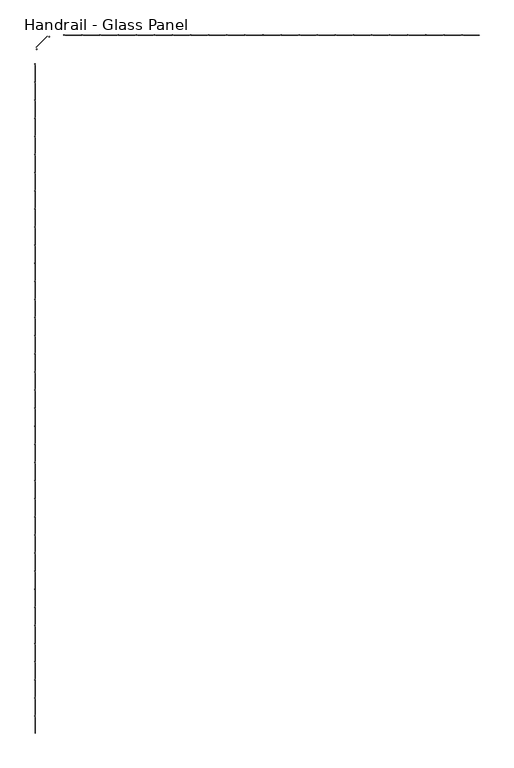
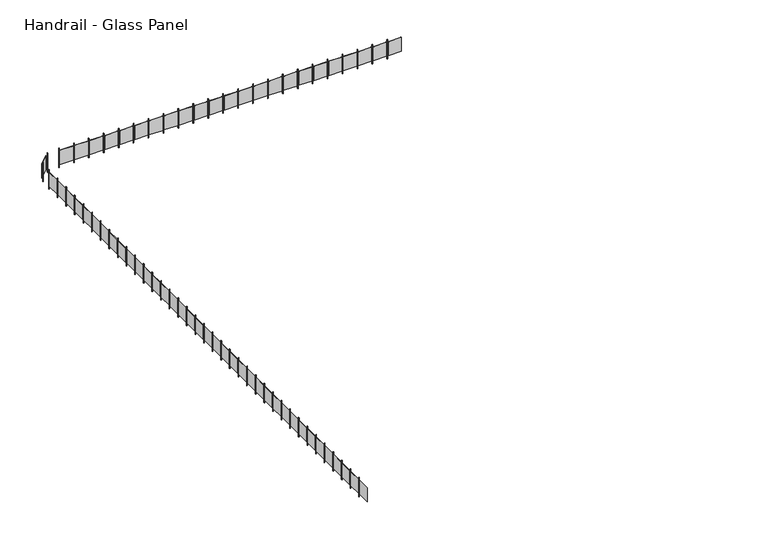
"""IFC4 building model written with IfcOpenShell, lengths in millimetres: railing geometry, Handrail - Glass Panel."""

from ifc_helpers import new_model, si_unit, frame, origin, place, context, project, spatial, polyline, outline, extrude, source, transform, mapped, element, save


def handrail_glass_panel_ca02703f(model_context):
    return source(origin(), model_context, "Body", "SweptSolid", [
        extrude(outline(polyline([(-20556.6365899, -12485.7148653), (-20556.6365899, -13044.5148653), (-20562.9865899, -13044.5148653), (-20562.9865899, -12485.7148653), (-20556.6365899, -12485.7148653)])), frame((0.0, 0.0, 11977.0), z_axis=(0.0, 0.0, 1.0), x_axis=(1.0, 0.0, 0.0)), (0.0, 0.0, 1.0), 635.0),
        extrude(outline(polyline([(-20572.5115899, -12438.0898653), (-20553.4615899, -12438.0898653), (-20553.4615899, -12457.1398653), (-20572.5115899, -12457.1398653), (-20572.5115899, -12438.0898653)])), frame((0.0, 0.0, 11850.0), z_axis=(0.0, 0.0, 1.0), x_axis=(1.0, 0.0, 0.0)), (0.0, 0.0, 1.0), 863.6),
        extrude(outline(polyline([(-20556.6365899, -11850.7148653), (-20556.6365899, -12409.5148653), (-20562.9865899, -12409.5148653), (-20562.9865899, -11850.7148653), (-20556.6365899, -11850.7148653)])), frame((0.0, 0.0, 11977.0), z_axis=(0.0, 0.0, 1.0), x_axis=(1.0, 0.0, 0.0)), (0.0, 0.0, 1.0), 635.0),
        extrude(outline(polyline([(-20572.5115899, -11803.0898653), (-20553.4615899, -11803.0898653), (-20553.4615899, -11822.1398653), (-20572.5115899, -11822.1398653), (-20572.5115899, -11803.0898653)])), frame((0.0, 0.0, 11850.0), z_axis=(0.0, 0.0, 1.0), x_axis=(1.0, 0.0, 0.0)), (0.0, 0.0, 1.0), 863.6),
        extrude(outline(polyline([(-20556.6365899, -11215.7148653), (-20556.6365899, -11774.5148653), (-20562.9865899, -11774.5148653), (-20562.9865899, -11215.7148653), (-20556.6365899, -11215.7148653)])), frame((0.0, 0.0, 11977.0), z_axis=(0.0, 0.0, 1.0), x_axis=(1.0, 0.0, 0.0)), (0.0, 0.0, 1.0), 635.0),
        extrude(outline(polyline([(-20572.5115899, -11168.0898653), (-20553.4615899, -11168.0898653), (-20553.4615899, -11187.1398653), (-20572.5115899, -11187.1398653), (-20572.5115899, -11168.0898653)])), frame((0.0, 0.0, 11850.0), z_axis=(0.0, 0.0, 1.0), x_axis=(1.0, 0.0, 0.0)), (0.0, 0.0, 1.0), 863.6),
        extrude(outline(polyline([(-20556.6365899, -10580.7148653), (-20556.6365899, -11139.5148653), (-20562.9865899, -11139.5148653), (-20562.9865899, -10580.7148653), (-20556.6365899, -10580.7148653)])), frame((0.0, 0.0, 11977.0), z_axis=(0.0, 0.0, 1.0), x_axis=(1.0, 0.0, 0.0)), (0.0, 0.0, 1.0), 635.0),
        extrude(outline(polyline([(-20572.5115899, -10533.0898653), (-20553.4615899, -10533.0898653), (-20553.4615899, -10552.1398653), (-20572.5115899, -10552.1398653), (-20572.5115899, -10533.0898653)])), frame((0.0, 0.0, 11850.0), z_axis=(0.0, 0.0, 1.0), x_axis=(1.0, 0.0, 0.0)), (0.0, 0.0, 1.0), 863.6),
        extrude(outline(polyline([(-20556.6365899, -9945.7148653), (-20556.6365899, -10504.5148653), (-20562.9865899, -10504.5148653), (-20562.9865899, -9945.7148653), (-20556.6365899, -9945.7148653)])), frame((0.0, 0.0, 11977.0), z_axis=(0.0, 0.0, 1.0), x_axis=(1.0, 0.0, 0.0)), (0.0, 0.0, 1.0), 635.0),
        extrude(outline(polyline([(-20572.5115899, -9898.0898653), (-20553.4615899, -9898.0898653), (-20553.4615899, -9917.1398653), (-20572.5115899, -9917.1398653), (-20572.5115899, -9898.0898653)])), frame((0.0, 0.0, 11850.0), z_axis=(0.0, 0.0, 1.0), x_axis=(1.0, 0.0, 0.0)), (0.0, 0.0, 1.0), 863.6),
        extrude(outline(polyline([(-20556.6365899, -9310.7148653), (-20556.6365899, -9869.5148653), (-20562.9865899, -9869.5148653), (-20562.9865899, -9310.7148653), (-20556.6365899, -9310.7148653)])), frame((0.0, 0.0, 11977.0), z_axis=(0.0, 0.0, 1.0), x_axis=(1.0, 0.0, 0.0)), (0.0, 0.0, 1.0), 635.0),
        extrude(outline(polyline([(-20572.5115899, -9263.0898653), (-20553.4615899, -9263.0898653), (-20553.4615899, -9282.1398653), (-20572.5115899, -9282.1398653), (-20572.5115899, -9263.0898653)])), frame((0.0, 0.0, 11850.0), z_axis=(0.0, 0.0, 1.0), x_axis=(1.0, 0.0, 0.0)), (0.0, 0.0, 1.0), 863.6),
        extrude(outline(polyline([(-20556.6365899, -8675.7148653), (-20556.6365899, -9234.5148653), (-20562.9865899, -9234.5148653), (-20562.9865899, -8675.7148653), (-20556.6365899, -8675.7148653)])), frame((0.0, 0.0, 11977.0), z_axis=(0.0, 0.0, 1.0), x_axis=(1.0, 0.0, 0.0)), (0.0, 0.0, 1.0), 635.0),
        extrude(outline(polyline([(-20572.5115899, -8628.0898653), (-20553.4615899, -8628.0898653), (-20553.4615899, -8647.1398653), (-20572.5115899, -8647.1398653), (-20572.5115899, -8628.0898653)])), frame((0.0, 0.0, 11850.0), z_axis=(0.0, 0.0, 1.0), x_axis=(1.0, 0.0, 0.0)), (0.0, 0.0, 1.0), 863.6),
        extrude(outline(polyline([(-20556.6365899, -8040.7148653), (-20556.6365899, -8599.5148653), (-20562.9865899, -8599.5148653), (-20562.9865899, -8040.7148653), (-20556.6365899, -8040.7148653)])), frame((0.0, 0.0, 11977.0), z_axis=(0.0, 0.0, 1.0), x_axis=(1.0, 0.0, 0.0)), (0.0, 0.0, 1.0), 635.0),
        extrude(outline(polyline([(-20572.5115899, -7993.0898653), (-20553.4615899, -7993.0898653), (-20553.4615899, -8012.1398653), (-20572.5115899, -8012.1398653), (-20572.5115899, -7993.0898653)])), frame((0.0, 0.0, 11850.0), z_axis=(0.0, 0.0, 1.0), x_axis=(1.0, 0.0, 0.0)), (0.0, 0.0, 1.0), 863.6),
        extrude(outline(polyline([(-20556.6365899, -7405.7148653), (-20556.6365899, -7964.5148653), (-20562.9865899, -7964.5148653), (-20562.9865899, -7405.7148653), (-20556.6365899, -7405.7148653)])), frame((0.0, 0.0, 11977.0), z_axis=(0.0, 0.0, 1.0), x_axis=(1.0, 0.0, 0.0)), (0.0, 0.0, 1.0), 635.0),
        extrude(outline(polyline([(-20572.5115899, -7358.0898653), (-20553.4615899, -7358.0898653), (-20553.4615899, -7377.1398653), (-20572.5115899, -7377.1398653), (-20572.5115899, -7358.0898653)])), frame((0.0, 0.0, 11850.0), z_axis=(0.0, 0.0, 1.0), x_axis=(1.0, 0.0, 0.0)), (0.0, 0.0, 1.0), 863.6),
        extrude(outline(polyline([(-20556.6365899, -6770.7148653), (-20556.6365899, -7329.5148653), (-20562.9865899, -7329.5148653), (-20562.9865899, -6770.7148653), (-20556.6365899, -6770.7148653)])), frame((0.0, 0.0, 11977.0), z_axis=(0.0, 0.0, 1.0), x_axis=(1.0, 0.0, 0.0)), (0.0, 0.0, 1.0), 635.0),
        extrude(outline(polyline([(-20572.5115899, -6723.0898653), (-20553.4615899, -6723.0898653), (-20553.4615899, -6742.1398653), (-20572.5115899, -6742.1398653), (-20572.5115899, -6723.0898653)])), frame((0.0, 0.0, 11850.0), z_axis=(0.0, 0.0, 1.0), x_axis=(1.0, 0.0, 0.0)), (0.0, 0.0, 1.0), 863.6),
        extrude(outline(polyline([(-20556.6365899, -6135.7148653), (-20556.6365899, -6694.5148653), (-20562.9865899, -6694.5148653), (-20562.9865899, -6135.7148653), (-20556.6365899, -6135.7148653)])), frame((0.0, 0.0, 11977.0), z_axis=(0.0, 0.0, 1.0), x_axis=(1.0, 0.0, 0.0)), (0.0, 0.0, 1.0), 635.0),
        extrude(outline(polyline([(-20572.5115899, -6088.0898653), (-20553.4615899, -6088.0898653), (-20553.4615899, -6107.1398653), (-20572.5115899, -6107.1398653), (-20572.5115899, -6088.0898653)])), frame((0.0, 0.0, 11850.0), z_axis=(0.0, 0.0, 1.0), x_axis=(1.0, 0.0, 0.0)), (0.0, 0.0, 1.0), 863.6),
        extrude(outline(polyline([(-20556.6365899, -5500.7148653), (-20556.6365899, -6059.5148653), (-20562.9865899, -6059.5148653), (-20562.9865899, -5500.7148653), (-20556.6365899, -5500.7148653)])), frame((0.0, 0.0, 11977.0), z_axis=(0.0, 0.0, 1.0), x_axis=(1.0, 0.0, 0.0)), (0.0, 0.0, 1.0), 635.0),
        extrude(outline(polyline([(-20572.5115899, -5453.0898653), (-20553.4615899, -5453.0898653), (-20553.4615899, -5472.1398653), (-20572.5115899, -5472.1398653), (-20572.5115899, -5453.0898653)])), frame((0.0, 0.0, 11850.0), z_axis=(0.0, 0.0, 1.0), x_axis=(1.0, 0.0, 0.0)), (0.0, 0.0, 1.0), 863.6),
        extrude(outline(polyline([(-20556.6365899, -4865.7148653), (-20556.6365899, -5424.5148653), (-20562.9865899, -5424.5148653), (-20562.9865899, -4865.7148653), (-20556.6365899, -4865.7148653)])), frame((0.0, 0.0, 11977.0), z_axis=(0.0, 0.0, 1.0), x_axis=(1.0, 0.0, 0.0)), (0.0, 0.0, 1.0), 635.0),
        extrude(outline(polyline([(-20572.5115899, -4818.0898653), (-20553.4615899, -4818.0898653), (-20553.4615899, -4837.1398653), (-20572.5115899, -4837.1398653), (-20572.5115899, -4818.0898653)])), frame((0.0, 0.0, 11850.0), z_axis=(0.0, 0.0, 1.0), x_axis=(1.0, 0.0, 0.0)), (0.0, 0.0, 1.0), 863.6),
        extrude(outline(polyline([(-20556.6365899, -4230.7148653), (-20556.6365899, -4789.5148653), (-20562.9865899, -4789.5148653), (-20562.9865899, -4230.7148653), (-20556.6365899, -4230.7148653)])), frame((0.0, 0.0, 11977.0), z_axis=(0.0, 0.0, 1.0), x_axis=(1.0, 0.0, 0.0)), (0.0, 0.0, 1.0), 635.0),
        extrude(outline(polyline([(-20572.5115899, -4183.0898653), (-20553.4615899, -4183.0898653), (-20553.4615899, -4202.1398653), (-20572.5115899, -4202.1398653), (-20572.5115899, -4183.0898653)])), frame((0.0, 0.0, 11850.0), z_axis=(0.0, 0.0, 1.0), x_axis=(1.0, 0.0, 0.0)), (0.0, 0.0, 1.0), 863.6),
        extrude(outline(polyline([(-20556.6365899, -3595.7148653), (-20556.6365899, -4154.5148653), (-20562.9865899, -4154.5148653), (-20562.9865899, -3595.7148653), (-20556.6365899, -3595.7148653)])), frame((0.0, 0.0, 11977.0), z_axis=(0.0, 0.0, 1.0), x_axis=(1.0, 0.0, 0.0)), (0.0, 0.0, 1.0), 635.0),
        extrude(outline(polyline([(-20572.5115899, -3548.0898653), (-20553.4615899, -3548.0898653), (-20553.4615899, -3567.1398653), (-20572.5115899, -3567.1398653), (-20572.5115899, -3548.0898653)])), frame((0.0, 0.0, 11850.0), z_axis=(0.0, 0.0, 1.0), x_axis=(1.0, 0.0, 0.0)), (0.0, 0.0, 1.0), 863.6),
        extrude(outline(polyline([(-20556.6365899, -2960.7148653), (-20556.6365899, -3519.5148653), (-20562.9865899, -3519.5148653), (-20562.9865899, -2960.7148653), (-20556.6365899, -2960.7148653)])), frame((0.0, 0.0, 11977.0), z_axis=(0.0, 0.0, 1.0), x_axis=(1.0, 0.0, 0.0)), (0.0, 0.0, 1.0), 635.0),
        extrude(outline(polyline([(-20572.5115899, -2913.0898653), (-20553.4615899, -2913.0898653), (-20553.4615899, -2932.1398653), (-20572.5115899, -2932.1398653), (-20572.5115899, -2913.0898653)])), frame((0.0, 0.0, 11850.0), z_axis=(0.0, 0.0, 1.0), x_axis=(1.0, 0.0, 0.0)), (0.0, 0.0, 1.0), 863.6),
        extrude(outline(polyline([(-20556.6365899, -2325.7148653), (-20556.6365899, -2884.5148653), (-20562.9865899, -2884.5148653), (-20562.9865899, -2325.7148653), (-20556.6365899, -2325.7148653)])), frame((0.0, 0.0, 11977.0), z_axis=(0.0, 0.0, 1.0), x_axis=(1.0, 0.0, 0.0)), (0.0, 0.0, 1.0), 635.0),
        extrude(outline(polyline([(-20572.5115899, -2278.0898653), (-20553.4615899, -2278.0898653), (-20553.4615899, -2297.1398653), (-20572.5115899, -2297.1398653), (-20572.5115899, -2278.0898653)])), frame((0.0, 0.0, 11850.0), z_axis=(0.0, 0.0, 1.0), x_axis=(1.0, 0.0, 0.0)), (0.0, 0.0, 1.0), 863.6),
        extrude(outline(polyline([(-20556.6365899, -1690.7148653), (-20556.6365899, -2249.5148653), (-20562.9865899, -2249.5148653), (-20562.9865899, -1690.7148653), (-20556.6365899, -1690.7148653)])), frame((0.0, 0.0, 11977.0), z_axis=(0.0, 0.0, 1.0), x_axis=(1.0, 0.0, 0.0)), (0.0, 0.0, 1.0), 635.0),
        extrude(outline(polyline([(-20572.5115899, -1643.0898653), (-20553.4615899, -1643.0898653), (-20553.4615899, -1662.1398653), (-20572.5115899, -1662.1398653), (-20572.5115899, -1643.0898653)])), frame((0.0, 0.0, 11850.0), z_axis=(0.0, 0.0, 1.0), x_axis=(1.0, 0.0, 0.0)), (0.0, 0.0, 1.0), 863.6),
        extrude(outline(polyline([(-20556.6365899, -1055.7148653), (-20556.6365899, -1614.5148653), (-20562.9865899, -1614.5148653), (-20562.9865899, -1055.7148653), (-20556.6365899, -1055.7148653)])), frame((0.0, 0.0, 11977.0), z_axis=(0.0, 0.0, 1.0), x_axis=(1.0, 0.0, 0.0)), (0.0, 0.0, 1.0), 635.0),
        extrude(outline(polyline([(-20572.5115899, -1008.0898653), (-20553.4615899, -1008.0898653), (-20553.4615899, -1027.1398653), (-20572.5115899, -1027.1398653), (-20572.5115899, -1008.0898653)])), frame((0.0, 0.0, 11850.0), z_axis=(0.0, 0.0, 1.0), x_axis=(1.0, 0.0, 0.0)), (0.0, 0.0, 1.0), 863.6),
        extrude(outline(polyline([(-20556.6365899, -420.7148653), (-20556.6365899, -979.5148653), (-20562.9865899, -979.5148653), (-20562.9865899, -420.7148653), (-20556.6365899, -420.7148653)])), frame((0.0, 0.0, 11977.0), z_axis=(0.0, 0.0, 1.0), x_axis=(1.0, 0.0, 0.0)), (0.0, 0.0, 1.0), 635.0),
        extrude(outline(polyline([(-20572.5115899, -373.0898653), (-20553.4615899, -373.0898653), (-20553.4615899, -392.1398653), (-20572.5115899, -392.1398653), (-20572.5115899, -373.0898653)])), frame((0.0, 0.0, 11850.0), z_axis=(0.0, 0.0, 1.0), x_axis=(1.0, 0.0, 0.0)), (0.0, 0.0, 1.0), 863.6),
        extrude(outline(polyline([(-20556.6365899, 214.2851347), (-20556.6365899, -344.5148653), (-20562.9865899, -344.5148653), (-20562.9865899, 214.2851347), (-20556.6365899, 214.2851347)])), frame((0.0, 0.0, 11977.0), z_axis=(0.0, 0.0, 1.0), x_axis=(1.0, 0.0, 0.0)), (0.0, 0.0, 1.0), 635.0),
        extrude(outline(polyline([(-20572.5115899, 261.9101347), (-20553.4615899, 261.9101347), (-20553.4615899, 242.8601347), (-20572.5115899, 242.8601347), (-20572.5115899, 261.9101347)])), frame((0.0, 0.0, 11850.0), z_axis=(0.0, 0.0, 1.0), x_axis=(1.0, 0.0, 0.0)), (0.0, 0.0, 1.0), 863.6),
        extrude(outline(polyline([(-20556.6365899, 849.2851347), (-20556.6365899, 290.4851347), (-20562.9865899, 290.4851347), (-20562.9865899, 849.2851347), (-20556.6365899, 849.2851347)])), frame((0.0, 0.0, 11977.0), z_axis=(0.0, 0.0, 1.0), x_axis=(1.0, 0.0, 0.0)), (0.0, 0.0, 1.0), 635.0),
        extrude(outline(polyline([(-20572.5115899, 896.9101347), (-20553.4615899, 896.9101347), (-20553.4615899, 877.8601347), (-20572.5115899, 877.8601347), (-20572.5115899, 896.9101347)])), frame((0.0, 0.0, 11850.0), z_axis=(0.0, 0.0, 1.0), x_axis=(1.0, 0.0, 0.0)), (0.0, 0.0, 1.0), 863.6),
        extrude(outline(polyline([(-20556.6365899, 1484.2851347), (-20556.6365899, 925.4851347), (-20562.9865899, 925.4851347), (-20562.9865899, 1484.2851347), (-20556.6365899, 1484.2851347)])), frame((0.0, 0.0, 11977.0), z_axis=(0.0, 0.0, 1.0), x_axis=(1.0, 0.0, 0.0)), (0.0, 0.0, 1.0), 635.0),
        extrude(outline(polyline([(-20572.5115899, 1531.9101347), (-20553.4615899, 1531.9101347), (-20553.4615899, 1512.8601347), (-20572.5115899, 1512.8601347), (-20572.5115899, 1531.9101347)])), frame((0.0, 0.0, 11850.0), z_axis=(0.0, 0.0, 1.0), x_axis=(1.0, 0.0, 0.0)), (0.0, 0.0, 1.0), 863.6),
        extrude(outline(polyline([(-20556.6365899, 2119.2851347), (-20556.6365899, 1560.4851347), (-20562.9865899, 1560.4851347), (-20562.9865899, 2119.2851347), (-20556.6365899, 2119.2851347)])), frame((0.0, 0.0, 11977.0), z_axis=(0.0, 0.0, 1.0), x_axis=(1.0, 0.0, 0.0)), (0.0, 0.0, 1.0), 635.0),
        extrude(outline(polyline([(-20572.5115899, 2166.9101347), (-20553.4615899, 2166.9101347), (-20553.4615899, 2147.8601347), (-20572.5115899, 2147.8601347), (-20572.5115899, 2166.9101347)])), frame((0.0, 0.0, 11850.0), z_axis=(0.0, 0.0, 1.0), x_axis=(1.0, 0.0, 0.0)), (0.0, 0.0, 1.0), 863.6),
        extrude(outline(polyline([(-20556.6365899, 2754.2851347), (-20556.6365899, 2195.4851347), (-20562.9865899, 2195.4851347), (-20562.9865899, 2754.2851347), (-20556.6365899, 2754.2851347)])), frame((0.0, 0.0, 11977.0), z_axis=(0.0, 0.0, 1.0), x_axis=(1.0, 0.0, 0.0)), (0.0, 0.0, 1.0), 635.0),
        extrude(outline(polyline([(-20572.5115899, 2801.9101347), (-20553.4615899, 2801.9101347), (-20553.4615899, 2782.8601347), (-20572.5115899, 2782.8601347), (-20572.5115899, 2801.9101347)])), frame((0.0, 0.0, 11850.0), z_axis=(0.0, 0.0, 1.0), x_axis=(1.0, 0.0, 0.0)), (0.0, 0.0, 1.0), 863.6),
        extrude(outline(polyline([(-20556.6365899, 3389.2851347), (-20556.6365899, 2830.4851347), (-20562.9865899, 2830.4851347), (-20562.9865899, 3389.2851347), (-20556.6365899, 3389.2851347)])), frame((0.0, 0.0, 11977.0), z_axis=(0.0, 0.0, 1.0), x_axis=(1.0, 0.0, 0.0)), (0.0, 0.0, 1.0), 635.0),
        extrude(outline(polyline([(-20572.5115899, 3436.9101347), (-20553.4615899, 3436.9101347), (-20553.4615899, 3417.8601347), (-20572.5115899, 3417.8601347), (-20572.5115899, 3436.9101347)])), frame((0.0, 0.0, 11850.0), z_axis=(0.0, 0.0, 1.0), x_axis=(1.0, 0.0, 0.0)), (0.0, 0.0, 1.0), 863.6),
        extrude(outline(polyline([(-20556.6365899, 4024.2851347), (-20556.6365899, 3465.4851347), (-20562.9865899, 3465.4851347), (-20562.9865899, 4024.2851347), (-20556.6365899, 4024.2851347)])), frame((0.0, 0.0, 11977.0), z_axis=(0.0, 0.0, 1.0), x_axis=(1.0, 0.0, 0.0)), (0.0, 0.0, 1.0), 635.0),
        extrude(outline(polyline([(-20572.5115899, 4071.9101347), (-20553.4615899, 4071.9101347), (-20553.4615899, 4052.8601347), (-20572.5115899, 4052.8601347), (-20572.5115899, 4071.9101347)])), frame((0.0, 0.0, 11850.0), z_axis=(0.0, 0.0, 1.0), x_axis=(1.0, 0.0, 0.0)), (0.0, 0.0, 1.0), 863.6),
        extrude(outline(polyline([(-20556.6365899, 4659.2851347), (-20556.6365899, 4100.4851347), (-20562.9865899, 4100.4851347), (-20562.9865899, 4659.2851347), (-20556.6365899, 4659.2851347)])), frame((0.0, 0.0, 11977.0), z_axis=(0.0, 0.0, 1.0), x_axis=(1.0, 0.0, 0.0)), (0.0, 0.0, 1.0), 635.0),
        extrude(outline(polyline([(-20572.5115899, 4706.9101347), (-20553.4615899, 4706.9101347), (-20553.4615899, 4687.8601347), (-20572.5115899, 4687.8601347), (-20572.5115899, 4706.9101347)])), frame((0.0, 0.0, 11850.0), z_axis=(0.0, 0.0, 1.0), x_axis=(1.0, 0.0, 0.0)), (0.0, 0.0, 1.0), 863.6),
        extrude(outline(polyline([(-20556.6365899, 5294.2851347), (-20556.6365899, 4735.4851347), (-20562.9865899, 4735.4851347), (-20562.9865899, 5294.2851347), (-20556.6365899, 5294.2851347)])), frame((0.0, 0.0, 11977.0), z_axis=(0.0, 0.0, 1.0), x_axis=(1.0, 0.0, 0.0)), (0.0, 0.0, 1.0), 635.0),
        extrude(outline(polyline([(-20572.5115899, 5341.9101347), (-20553.4615899, 5341.9101347), (-20553.4615899, 5322.8601347), (-20572.5115899, 5322.8601347), (-20572.5115899, 5341.9101347)])), frame((0.0, 0.0, 11850.0), z_axis=(0.0, 0.0, 1.0), x_axis=(1.0, 0.0, 0.0)), (0.0, 0.0, 1.0), 863.6),
        extrude(outline(polyline([(-20556.6365899, 5929.2851347), (-20556.6365899, 5370.4851347), (-20562.9865899, 5370.4851347), (-20562.9865899, 5929.2851347), (-20556.6365899, 5929.2851347)])), frame((0.0, 0.0, 11977.0), z_axis=(0.0, 0.0, 1.0), x_axis=(1.0, 0.0, 0.0)), (0.0, 0.0, 1.0), 635.0),
        extrude(outline(polyline([(-20572.5115899, 5976.9101347), (-20553.4615899, 5976.9101347), (-20553.4615899, 5957.8601347), (-20572.5115899, 5957.8601347), (-20572.5115899, 5976.9101347)])), frame((0.0, 0.0, 11850.0), z_axis=(0.0, 0.0, 1.0), x_axis=(1.0, 0.0, 0.0)), (0.0, 0.0, 1.0), 863.6),
        extrude(outline(polyline([(-20556.6365899, 6564.2851347), (-20556.6365899, 6005.4851347), (-20562.9865899, 6005.4851347), (-20562.9865899, 6564.2851347), (-20556.6365899, 6564.2851347)])), frame((0.0, 0.0, 11977.0), z_axis=(0.0, 0.0, 1.0), x_axis=(1.0, 0.0, 0.0)), (0.0, 0.0, 1.0), 635.0),
        extrude(outline(polyline([(-20572.5115899, 6611.9101347), (-20553.4615899, 6611.9101347), (-20553.4615899, 6592.8601347), (-20572.5115899, 6592.8601347), (-20572.5115899, 6611.9101347)])), frame((0.0, 0.0, 11850.0), z_axis=(0.0, 0.0, 1.0), x_axis=(1.0, 0.0, 0.0)), (0.0, 0.0, 1.0), 863.6),
        extrude(outline(polyline([(-20556.6365899, 7199.2851347), (-20556.6365899, 6640.4851347), (-20562.9865899, 6640.4851347), (-20562.9865899, 7199.2851347), (-20556.6365899, 7199.2851347)])), frame((0.0, 0.0, 11977.0), z_axis=(0.0, 0.0, 1.0), x_axis=(1.0, 0.0, 0.0)), (0.0, 0.0, 1.0), 635.0),
        extrude(outline(polyline([(-20572.5115899, 7246.9101347), (-20553.4615899, 7246.9101347), (-20553.4615899, 7227.8601347), (-20572.5115899, 7227.8601347), (-20572.5115899, 7246.9101347)])), frame((0.0, 0.0, 11850.0), z_axis=(0.0, 0.0, 1.0), x_axis=(1.0, 0.0, 0.0)), (0.0, 0.0, 1.0), 863.6),
        extrude(outline(polyline([(-20556.6365899, 7834.2851347), (-20556.6365899, 7275.4851347), (-20562.9865899, 7275.4851347), (-20562.9865899, 7834.2851347), (-20556.6365899, 7834.2851347)])), frame((0.0, 0.0, 11977.0), z_axis=(0.0, 0.0, 1.0), x_axis=(1.0, 0.0, 0.0)), (0.0, 0.0, 1.0), 635.0),
        extrude(outline(polyline([(-20572.5115899, 7881.9101347), (-20553.4615899, 7881.9101347), (-20553.4615899, 7862.8601347), (-20572.5115899, 7862.8601347), (-20572.5115899, 7881.9101347)])), frame((0.0, 0.0, 11850.0), z_axis=(0.0, 0.0, 1.0), x_axis=(1.0, 0.0, 0.0)), (0.0, 0.0, 1.0), 863.6),
        extrude(outline(polyline([(-20556.6365899, 8469.2851347), (-20556.6365899, 7910.4851347), (-20562.9865899, 7910.4851347), (-20562.9865899, 8469.2851347), (-20556.6365899, 8469.2851347)])), frame((0.0, 0.0, 11977.0), z_axis=(0.0, 0.0, 1.0), x_axis=(1.0, 0.0, 0.0)), (0.0, 0.0, 1.0), 635.0),
        extrude(outline(polyline([(-20572.5115899, 8516.9101347), (-20553.4615899, 8516.9101347), (-20553.4615899, 8497.8601347), (-20572.5115899, 8497.8601347), (-20572.5115899, 8516.9101347)])), frame((0.0, 0.0, 11850.0), z_axis=(0.0, 0.0, 1.0), x_axis=(1.0, 0.0, 0.0)), (0.0, 0.0, 1.0), 863.6),
        extrude(outline(polyline([(-20556.6365899, 9104.2851347), (-20556.6365899, 8545.4851347), (-20562.9865899, 8545.4851347), (-20562.9865899, 9104.2851347), (-20556.6365899, 9104.2851347)])), frame((0.0, 0.0, 11977.0), z_axis=(0.0, 0.0, 1.0), x_axis=(1.0, 0.0, 0.0)), (0.0, 0.0, 1.0), 635.0),
        extrude(outline(polyline([(-20572.5115899, 9151.9101347), (-20553.4615899, 9151.9101347), (-20553.4615899, 9132.8601347), (-20572.5115899, 9132.8601347), (-20572.5115899, 9151.9101347)])), frame((0.0, 0.0, 11850.0), z_axis=(0.0, 0.0, 1.0), x_axis=(1.0, 0.0, 0.0)), (0.0, 0.0, 1.0), 863.6),
        extrude(outline(polyline([(-20556.6365899, 9739.2851347), (-20556.6365899, 9180.4851347), (-20562.9865899, 9180.4851347), (-20562.9865899, 9739.2851347), (-20556.6365899, 9739.2851347)])), frame((0.0, 0.0, 11977.0), z_axis=(0.0, 0.0, 1.0), x_axis=(1.0, 0.0, 0.0)), (0.0, 0.0, 1.0), 635.0),
        extrude(outline(polyline([(-20572.5115899, 9786.9101347), (-20553.4615899, 9786.9101347), (-20553.4615899, 9767.8601347), (-20572.5115899, 9767.8601347), (-20572.5115899, 9786.9101347)])), frame((0.0, 0.0, 11850.0), z_axis=(0.0, 0.0, 1.0), x_axis=(1.0, 0.0, 0.0)), (0.0, 0.0, 1.0), 863.6),
        extrude(outline(polyline([(-20556.6365899, 10374.2851347), (-20556.6365899, 9815.4851347), (-20562.9865899, 9815.4851347), (-20562.9865899, 10374.2851347), (-20556.6365899, 10374.2851347)])), frame((0.0, 0.0, 11977.0), z_axis=(0.0, 0.0, 1.0), x_axis=(1.0, 0.0, 0.0)), (0.0, 0.0, 1.0), 635.0),
        extrude(outline(polyline([(-20572.5115899, 10421.9101347), (-20553.4615899, 10421.9101347), (-20553.4615899, 10402.8601347), (-20572.5115899, 10402.8601347), (-20572.5115899, 10421.9101347)])), frame((0.0, 0.0, 11850.0), z_axis=(0.0, 0.0, 1.0), x_axis=(1.0, 0.0, 0.0)), (0.0, 0.0, 1.0), 863.6),
        extrude(outline(polyline([(-20514.1999922, 10944.4220765), (-20496.4803333, 10937.4280656), (-20503.4743442, 10919.7084067), (-20521.1940031, 10926.7024176), (-20514.1999922, 10944.4220765)])), frame((0.0, 0.0, 11850.0), z_axis=(0.0, 0.0, 1.0), x_axis=(1.0, 0.0, 0.0)), (0.0, 0.0, 1.0), 863.6),
        extrude(outline(polyline([(-20133.8214253, 11388.7512395), (-20528.9526946, 10993.6199701), (-20533.4428227, 10998.1100982), (-20138.3115534, 11393.2413675), (-20133.8214253, 11388.7512395)])), frame((0.0, 0.0, 11977.0), z_axis=(0.0, 0.0, 1.0), x_axis=(1.0, 0.0, 0.0)), (0.0, 0.0, 1.0), 635.0),
        extrude(outline(polyline([(-20066.9038727, 11380.992548), (-20059.9098618, 11363.2728891), (-20077.6295208, 11356.2788782), (-20084.6235316, 11373.9985371), (-20066.9038727, 11380.992548)])), frame((0.0, 0.0, 11850.0), z_axis=(0.0, 0.0, 1.0), x_axis=(1.0, 0.0, 0.0)), (0.0, 0.0, 1.0), 863.6),
        extrude(outline(polyline([(-19543.0615899, 11432.3101347), (-19543.0615899, 11413.2601347), (-19562.1115899, 11413.2601347), (-19562.1115899, 11432.3101347), (-19543.0615899, 11432.3101347)])), frame((0.0, 0.0, 11850.0), z_axis=(0.0, 0.0, 1.0), x_axis=(1.0, 0.0, 0.0)), (0.0, 0.0, 1.0), 863.6),
        extrude(outline(polyline([(-18955.6865899, 11416.4351347), (-19514.4865899, 11416.4351347), (-19514.4865899, 11422.7851347), (-18955.6865899, 11422.7851347), (-18955.6865899, 11416.4351347)])), frame((0.0, 0.0, 11977.0), z_axis=(0.0, 0.0, 1.0), x_axis=(1.0, 0.0, 0.0)), (0.0, 0.0, 1.0), 635.0),
        extrude(outline(polyline([(-18908.0615899, 11432.3101347), (-18908.0615899, 11413.2601347), (-18927.1115899, 11413.2601347), (-18927.1115899, 11432.3101347), (-18908.0615899, 11432.3101347)])), frame((0.0, 0.0, 11850.0), z_axis=(0.0, 0.0, 1.0), x_axis=(1.0, 0.0, 0.0)), (0.0, 0.0, 1.0), 863.6),
        extrude(outline(polyline([(-18320.6865899, 11416.4351347), (-18879.4865899, 11416.4351347), (-18879.4865899, 11422.7851347), (-18320.6865899, 11422.7851347), (-18320.6865899, 11416.4351347)])), frame((0.0, 0.0, 11977.0), z_axis=(0.0, 0.0, 1.0), x_axis=(1.0, 0.0, 0.0)), (0.0, 0.0, 1.0), 635.0),
        extrude(outline(polyline([(-18273.0615899, 11432.3101347), (-18273.0615899, 11413.2601347), (-18292.1115899, 11413.2601347), (-18292.1115899, 11432.3101347), (-18273.0615899, 11432.3101347)])), frame((0.0, 0.0, 11850.0), z_axis=(0.0, 0.0, 1.0), x_axis=(1.0, 0.0, 0.0)), (0.0, 0.0, 1.0), 863.6),
        extrude(outline(polyline([(-17685.6865899, 11416.4351347), (-18244.4865899, 11416.4351347), (-18244.4865899, 11422.7851347), (-17685.6865899, 11422.7851347), (-17685.6865899, 11416.4351347)])), frame((0.0, 0.0, 11977.0), z_axis=(0.0, 0.0, 1.0), x_axis=(1.0, 0.0, 0.0)), (0.0, 0.0, 1.0), 635.0),
        extrude(outline(polyline([(-17638.0615899, 11432.3101347), (-17638.0615899, 11413.2601347), (-17657.1115899, 11413.2601347), (-17657.1115899, 11432.3101347), (-17638.0615899, 11432.3101347)])), frame((0.0, 0.0, 11850.0), z_axis=(0.0, 0.0, 1.0), x_axis=(1.0, 0.0, 0.0)), (0.0, 0.0, 1.0), 863.6),
        extrude(outline(polyline([(-17050.6865899, 11416.4351347), (-17609.4865899, 11416.4351347), (-17609.4865899, 11422.7851347), (-17050.6865899, 11422.7851347), (-17050.6865899, 11416.4351347)])), frame((0.0, 0.0, 11977.0), z_axis=(0.0, 0.0, 1.0), x_axis=(1.0, 0.0, 0.0)), (0.0, 0.0, 1.0), 635.0),
        extrude(outline(polyline([(-17003.0615899, 11432.3101347), (-17003.0615899, 11413.2601347), (-17022.1115899, 11413.2601347), (-17022.1115899, 11432.3101347), (-17003.0615899, 11432.3101347)])), frame((0.0, 0.0, 11850.0), z_axis=(0.0, 0.0, 1.0), x_axis=(1.0, 0.0, 0.0)), (0.0, 0.0, 1.0), 863.6),
        extrude(outline(polyline([(-16415.6865899, 11416.4351347), (-16974.4865899, 11416.4351347), (-16974.4865899, 11422.7851347), (-16415.6865899, 11422.7851347), (-16415.6865899, 11416.4351347)])), frame((0.0, 0.0, 11977.0), z_axis=(0.0, 0.0, 1.0), x_axis=(1.0, 0.0, 0.0)), (0.0, 0.0, 1.0), 635.0),
        extrude(outline(polyline([(-16368.0615899, 11432.3101347), (-16368.0615899, 11413.2601347), (-16387.1115899, 11413.2601347), (-16387.1115899, 11432.3101347), (-16368.0615899, 11432.3101347)])), frame((0.0, 0.0, 11850.0), z_axis=(0.0, 0.0, 1.0), x_axis=(1.0, 0.0, 0.0)), (0.0, 0.0, 1.0), 863.6),
        extrude(outline(polyline([(-15780.6865899, 11416.4351347), (-16339.4865899, 11416.4351347), (-16339.4865899, 11422.7851347), (-15780.6865899, 11422.7851347), (-15780.6865899, 11416.4351347)])), frame((0.0, 0.0, 11977.0), z_axis=(0.0, 0.0, 1.0), x_axis=(1.0, 0.0, 0.0)), (0.0, 0.0, 1.0), 635.0),
        extrude(outline(polyline([(-15733.0615899, 11432.3101347), (-15733.0615899, 11413.2601347), (-15752.1115899, 11413.2601347), (-15752.1115899, 11432.3101347), (-15733.0615899, 11432.3101347)])), frame((0.0, 0.0, 11850.0), z_axis=(0.0, 0.0, 1.0), x_axis=(1.0, 0.0, 0.0)), (0.0, 0.0, 1.0), 863.6),
        extrude(outline(polyline([(-15145.6865899, 11416.4351347), (-15704.4865899, 11416.4351347), (-15704.4865899, 11422.7851347), (-15145.6865899, 11422.7851347), (-15145.6865899, 11416.4351347)])), frame((0.0, 0.0, 11977.0), z_axis=(0.0, 0.0, 1.0), x_axis=(1.0, 0.0, 0.0)), (0.0, 0.0, 1.0), 635.0),
        extrude(outline(polyline([(-15098.0615899, 11432.3101347), (-15098.0615899, 11413.2601347), (-15117.1115899, 11413.2601347), (-15117.1115899, 11432.3101347), (-15098.0615899, 11432.3101347)])), frame((0.0, 0.0, 11850.0), z_axis=(0.0, 0.0, 1.0), x_axis=(1.0, 0.0, 0.0)), (0.0, 0.0, 1.0), 863.6),
        extrude(outline(polyline([(-14510.6865899, 11416.4351347), (-15069.4865899, 11416.4351347), (-15069.4865899, 11422.7851347), (-14510.6865899, 11422.7851347), (-14510.6865899, 11416.4351347)])), frame((0.0, 0.0, 11977.0), z_axis=(0.0, 0.0, 1.0), x_axis=(1.0, 0.0, 0.0)), (0.0, 0.0, 1.0), 635.0),
        extrude(outline(polyline([(-14463.0615899, 11432.3101347), (-14463.0615899, 11413.2601347), (-14482.1115899, 11413.2601347), (-14482.1115899, 11432.3101347), (-14463.0615899, 11432.3101347)])), frame((0.0, 0.0, 11850.0), z_axis=(0.0, 0.0, 1.0), x_axis=(1.0, 0.0, 0.0)), (0.0, 0.0, 1.0), 863.6),
        extrude(outline(polyline([(-13875.6865899, 11416.4351347), (-14434.4865899, 11416.4351347), (-14434.4865899, 11422.7851347), (-13875.6865899, 11422.7851347), (-13875.6865899, 11416.4351347)])), frame((0.0, 0.0, 11977.0), z_axis=(0.0, 0.0, 1.0), x_axis=(1.0, 0.0, 0.0)), (0.0, 0.0, 1.0), 635.0),
        extrude(outline(polyline([(-13828.0615899, 11432.3101347), (-13828.0615899, 11413.2601347), (-13847.1115899, 11413.2601347), (-13847.1115899, 11432.3101347), (-13828.0615899, 11432.3101347)])), frame((0.0, 0.0, 11850.0), z_axis=(0.0, 0.0, 1.0), x_axis=(1.0, 0.0, 0.0)), (0.0, 0.0, 1.0), 863.6),
        extrude(outline(polyline([(-13240.6865899, 11416.4351347), (-13799.4865899, 11416.4351347), (-13799.4865899, 11422.7851347), (-13240.6865899, 11422.7851347), (-13240.6865899, 11416.4351347)])), frame((0.0, 0.0, 11977.0), z_axis=(0.0, 0.0, 1.0), x_axis=(1.0, 0.0, 0.0)), (0.0, 0.0, 1.0), 635.0),
        extrude(outline(polyline([(-13193.0615899, 11432.3101347), (-13193.0615899, 11413.2601347), (-13212.1115899, 11413.2601347), (-13212.1115899, 11432.3101347), (-13193.0615899, 11432.3101347)])), frame((0.0, 0.0, 11850.0), z_axis=(0.0, 0.0, 1.0), x_axis=(1.0, 0.0, 0.0)), (0.0, 0.0, 1.0), 863.6),
        extrude(outline(polyline([(-12605.6865899, 11416.4351347), (-13164.4865899, 11416.4351347), (-13164.4865899, 11422.7851347), (-12605.6865899, 11422.7851347), (-12605.6865899, 11416.4351347)])), frame((0.0, 0.0, 11977.0), z_axis=(0.0, 0.0, 1.0), x_axis=(1.0, 0.0, 0.0)), (0.0, 0.0, 1.0), 635.0),
        extrude(outline(polyline([(-12558.0615899, 11432.3101347), (-12558.0615899, 11413.2601347), (-12577.1115899, 11413.2601347), (-12577.1115899, 11432.3101347), (-12558.0615899, 11432.3101347)])), frame((0.0, 0.0, 11850.0), z_axis=(0.0, 0.0, 1.0), x_axis=(1.0, 0.0, 0.0)), (0.0, 0.0, 1.0), 863.6),
        extrude(outline(polyline([(-11970.6865899, 11416.4351347), (-12529.4865899, 11416.4351347), (-12529.4865899, 11422.7851347), (-11970.6865899, 11422.7851347), (-11970.6865899, 11416.4351347)])), frame((0.0, 0.0, 11977.0), z_axis=(0.0, 0.0, 1.0), x_axis=(1.0, 0.0, 0.0)), (0.0, 0.0, 1.0), 635.0),
        extrude(outline(polyline([(-11923.0615899, 11432.3101347), (-11923.0615899, 11413.2601347), (-11942.1115899, 11413.2601347), (-11942.1115899, 11432.3101347), (-11923.0615899, 11432.3101347)])), frame((0.0, 0.0, 11850.0), z_axis=(0.0, 0.0, 1.0), x_axis=(1.0, 0.0, 0.0)), (0.0, 0.0, 1.0), 863.6),
        extrude(outline(polyline([(-11335.6865899, 11416.4351347), (-11894.4865899, 11416.4351347), (-11894.4865899, 11422.7851347), (-11335.6865899, 11422.7851347), (-11335.6865899, 11416.4351347)])), frame((0.0, 0.0, 11977.0), z_axis=(0.0, 0.0, 1.0), x_axis=(1.0, 0.0, 0.0)), (0.0, 0.0, 1.0), 635.0),
        extrude(outline(polyline([(-11288.0615899, 11432.3101347), (-11288.0615899, 11413.2601347), (-11307.1115899, 11413.2601347), (-11307.1115899, 11432.3101347), (-11288.0615899, 11432.3101347)])), frame((0.0, 0.0, 11850.0), z_axis=(0.0, 0.0, 1.0), x_axis=(1.0, 0.0, 0.0)), (0.0, 0.0, 1.0), 863.6),
        extrude(outline(polyline([(-10700.6865899, 11416.4351347), (-11259.4865899, 11416.4351347), (-11259.4865899, 11422.7851347), (-10700.6865899, 11422.7851347), (-10700.6865899, 11416.4351347)])), frame((0.0, 0.0, 11977.0), z_axis=(0.0, 0.0, 1.0), x_axis=(1.0, 0.0, 0.0)), (0.0, 0.0, 1.0), 635.0),
        extrude(outline(polyline([(-10653.0615899, 11432.3101347), (-10653.0615899, 11413.2601347), (-10672.1115899, 11413.2601347), (-10672.1115899, 11432.3101347), (-10653.0615899, 11432.3101347)])), frame((0.0, 0.0, 11850.0), z_axis=(0.0, 0.0, 1.0), x_axis=(1.0, 0.0, 0.0)), (0.0, 0.0, 1.0), 863.6),
        extrude(outline(polyline([(-10065.6865899, 11416.4351347), (-10624.4865899, 11416.4351347), (-10624.4865899, 11422.7851347), (-10065.6865899, 11422.7851347), (-10065.6865899, 11416.4351347)])), frame((0.0, 0.0, 11977.0), z_axis=(0.0, 0.0, 1.0), x_axis=(1.0, 0.0, 0.0)), (0.0, 0.0, 1.0), 635.0),
        extrude(outline(polyline([(-10018.0615899, 11432.3101347), (-10018.0615899, 11413.2601347), (-10037.1115899, 11413.2601347), (-10037.1115899, 11432.3101347), (-10018.0615899, 11432.3101347)])), frame((0.0, 0.0, 11850.0), z_axis=(0.0, 0.0, 1.0), x_axis=(1.0, 0.0, 0.0)), (0.0, 0.0, 1.0), 863.6),
        extrude(outline(polyline([(-9430.6865899, 11416.4351347), (-9989.4865899, 11416.4351347), (-9989.4865899, 11422.7851347), (-9430.6865899, 11422.7851347), (-9430.6865899, 11416.4351347)])), frame((0.0, 0.0, 11977.0), z_axis=(0.0, 0.0, 1.0), x_axis=(1.0, 0.0, 0.0)), (0.0, 0.0, 1.0), 635.0),
        extrude(outline(polyline([(-9383.0615899, 11432.3101347), (-9383.0615899, 11413.2601347), (-9402.1115899, 11413.2601347), (-9402.1115899, 11432.3101347), (-9383.0615899, 11432.3101347)])), frame((0.0, 0.0, 11850.0), z_axis=(0.0, 0.0, 1.0), x_axis=(1.0, 0.0, 0.0)), (0.0, 0.0, 1.0), 863.6),
        extrude(outline(polyline([(-8795.6865899, 11416.4351347), (-9354.4865899, 11416.4351347), (-9354.4865899, 11422.7851347), (-8795.6865899, 11422.7851347), (-8795.6865899, 11416.4351347)])), frame((0.0, 0.0, 11977.0), z_axis=(0.0, 0.0, 1.0), x_axis=(1.0, 0.0, 0.0)), (0.0, 0.0, 1.0), 635.0),
        extrude(outline(polyline([(-8748.0615899, 11432.3101347), (-8748.0615899, 11413.2601347), (-8767.1115899, 11413.2601347), (-8767.1115899, 11432.3101347), (-8748.0615899, 11432.3101347)])), frame((0.0, 0.0, 11850.0), z_axis=(0.0, 0.0, 1.0), x_axis=(1.0, 0.0, 0.0)), (0.0, 0.0, 1.0), 863.6),
        extrude(outline(polyline([(-8160.6865899, 11416.4351347), (-8719.4865899, 11416.4351347), (-8719.4865899, 11422.7851347), (-8160.6865899, 11422.7851347), (-8160.6865899, 11416.4351347)])), frame((0.0, 0.0, 11977.0), z_axis=(0.0, 0.0, 1.0), x_axis=(1.0, 0.0, 0.0)), (0.0, 0.0, 1.0), 635.0),
        extrude(outline(polyline([(-8113.0615899, 11432.3101347), (-8113.0615899, 11413.2601347), (-8132.1115899, 11413.2601347), (-8132.1115899, 11432.3101347), (-8113.0615899, 11432.3101347)])), frame((0.0, 0.0, 11850.0), z_axis=(0.0, 0.0, 1.0), x_axis=(1.0, 0.0, 0.0)), (0.0, 0.0, 1.0), 863.6),
        extrude(outline(polyline([(-7525.6865899, 11416.4351347), (-8084.4865899, 11416.4351347), (-8084.4865899, 11422.7851347), (-7525.6865899, 11422.7851347), (-7525.6865899, 11416.4351347)])), frame((0.0, 0.0, 11977.0), z_axis=(0.0, 0.0, 1.0), x_axis=(1.0, 0.0, 0.0)), (0.0, 0.0, 1.0), 635.0),
        extrude(outline(polyline([(-7478.0615899, 11432.3101347), (-7478.0615899, 11413.2601347), (-7497.1115899, 11413.2601347), (-7497.1115899, 11432.3101347), (-7478.0615899, 11432.3101347)])), frame((0.0, 0.0, 11850.0), z_axis=(0.0, 0.0, 1.0), x_axis=(1.0, 0.0, 0.0)), (0.0, 0.0, 1.0), 863.6),
        extrude(outline(polyline([(-6890.6865899, 11416.4351347), (-7449.4865899, 11416.4351347), (-7449.4865899, 11422.7851347), (-6890.6865899, 11422.7851347), (-6890.6865899, 11416.4351347)])), frame((0.0, 0.0, 11977.0), z_axis=(0.0, 0.0, 1.0), x_axis=(1.0, 0.0, 0.0)), (0.0, 0.0, 1.0), 635.0),
        extrude(outline(polyline([(-6843.0615899, 11432.3101347), (-6843.0615899, 11413.2601347), (-6862.1115899, 11413.2601347), (-6862.1115899, 11432.3101347), (-6843.0615899, 11432.3101347)])), frame((0.0, 0.0, 11850.0), z_axis=(0.0, 0.0, 1.0), x_axis=(1.0, 0.0, 0.0)), (0.0, 0.0, 1.0), 863.6),
        extrude(outline(polyline([(-6255.6865899, 11416.4351347), (-6814.4865899, 11416.4351347), (-6814.4865899, 11422.7851347), (-6255.6865899, 11422.7851347), (-6255.6865899, 11416.4351347)])), frame((0.0, 0.0, 11977.0), z_axis=(0.0, 0.0, 1.0), x_axis=(1.0, 0.0, 0.0)), (0.0, 0.0, 1.0), 635.0),
        extrude(outline(polyline([(-6208.0615899, 11432.3101347), (-6208.0615899, 11413.2601347), (-6227.1115899, 11413.2601347), (-6227.1115899, 11432.3101347), (-6208.0615899, 11432.3101347)])), frame((0.0, 0.0, 11850.0), z_axis=(0.0, 0.0, 1.0), x_axis=(1.0, 0.0, 0.0)), (0.0, 0.0, 1.0), 863.6),
        extrude(outline(polyline([(-5620.6865899, 11416.4351347), (-6179.4865899, 11416.4351347), (-6179.4865899, 11422.7851347), (-5620.6865899, 11422.7851347), (-5620.6865899, 11416.4351347)])), frame((0.0, 0.0, 11977.0), z_axis=(0.0, 0.0, 1.0), x_axis=(1.0, 0.0, 0.0)), (0.0, 0.0, 1.0), 635.0),
        extrude(outline(polyline([(-5573.0615899, 11432.3101347), (-5573.0615899, 11413.2601347), (-5592.1115899, 11413.2601347), (-5592.1115899, 11432.3101347), (-5573.0615899, 11432.3101347)])), frame((0.0, 0.0, 11850.0), z_axis=(0.0, 0.0, 1.0), x_axis=(1.0, 0.0, 0.0)), (0.0, 0.0, 1.0), 863.6),
        extrude(outline(polyline([(-4985.6865899, 11416.4351347), (-5544.4865899, 11416.4351347), (-5544.4865899, 11422.7851347), (-4985.6865899, 11422.7851347), (-4985.6865899, 11416.4351347)])), frame((0.0, 0.0, 11977.0), z_axis=(0.0, 0.0, 1.0), x_axis=(1.0, 0.0, 0.0)), (0.0, 0.0, 1.0), 635.0),
    ])


if __name__ == "__main__":
    model = new_model("IFC4")
    model_context = context("Model", 3, world=origin())
    ifc_project = project(units=[si_unit("LENGTHUNIT", "METRE", prefix="MILLI")], contexts=[model_context])
    site = spatial("IfcSite", under=ifc_project)
    building = spatial("IfcBuilding", under=site)
    placement = place(None, origin())
    handrail_glass_panel_shape = handrail_glass_panel_ca02703f(model_context)
    element("IfcRailing", 1, ObjectType="Handrail - Glass Panel", at=placement, inside=building, context=model_context, shape_type="MappedRepresentation", body=[
        mapped(handrail_glass_panel_shape, transform((0.0, 0.0, 0.0), x_axis=(1.0, 0.0, 0.0), y_axis=(0.0, 1.0, 0.0), z_axis=(0.0, 0.0, 1.0))),
    ])
    save(model, "model.ifc")
